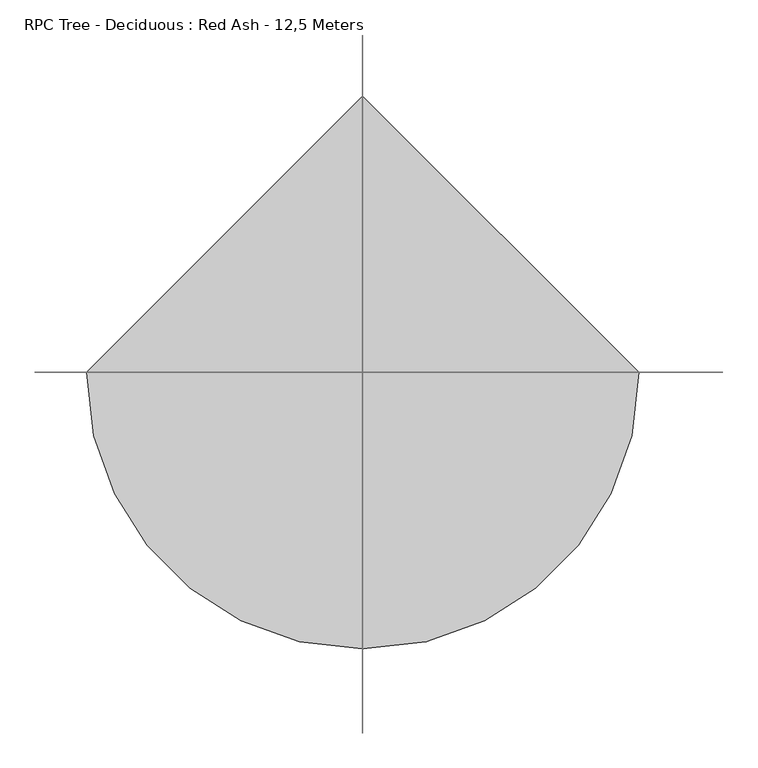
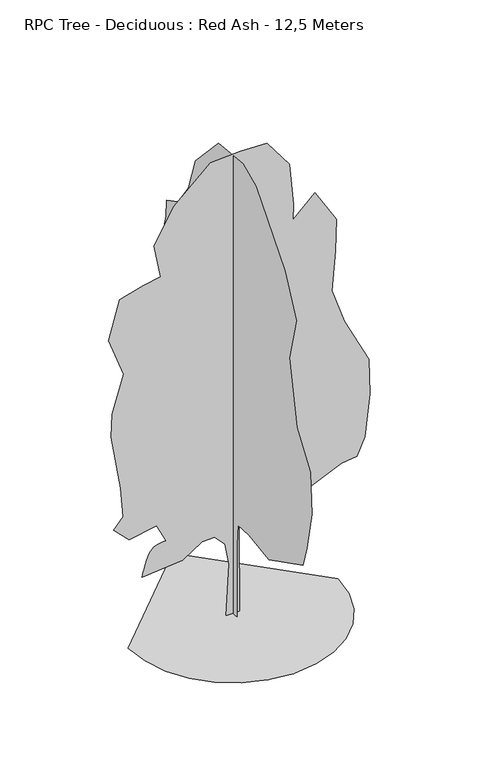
"""IFC4 building model written with IfcOpenShell, lengths in millimetres: geographic element geometry, RPC Tree - Deciduous : Red Ash - 12,5 Meters."""

from ifc_helpers import new_model, si_unit, origin, place, context, project, spatial, triangles, source, transform, mapped, element, save


def rpc_tree_deciduous_red_ash_12_5_meters_c1333066(model_context):
    return source(origin(), model_context, "Body", "Tessellation", [
        triangles([(-2698.4129082, 0.0, 0.0001015), (-2627.0754021, -618.2977976, 0.0001015), (-2423.908152, -1186.1054358, 0.0001015), (-2105.1777523, -1687.1544308, 0.0001015), (-1687.1547215, -2105.1781883, 0.0001015), (-1186.1051451, -2423.9075706, 0.0001015), (-618.2975069, -2627.0754021, 0.0001015), (0.000118, -2698.4129082, 0.0001015), (618.2978703, -2627.0754021, 0.0001015), (1186.1055084, -2423.9078613, 0.0001015), (1687.1547215, -2105.1777523, 0.0001015), (2105.178479, -1687.1547215, 0.0001015), (2423.907716, -1186.1049997, 0.0001015), (2627.0754021, -618.2973616, 0.0001015), (2698.4129082, 0.0002359, 0.0001015), (-0.0003539, 2698.4129082, 0.0001015), (-1.76e-05, -168.7110502, 0.0), (4.11e-05, -166.0871369, 1959.5702156), (5.3e-05, -213.0609594, 2522.6425323), (1.1e-06, -719.8579502, 2556.045726), (-9.48e-05, -1601.6917694, 2425.0441292), (-0.0002305, -3122.8556053, 3196.6487755), (-0.0002318, -3299.2224564, 3769.841114), (-0.0002232, -3519.6808022, 4828.0419296), (-0.0001835, -3453.5438507, 5930.3345306), (-9.53e-05, -2854.9574226, 6793.0074554), (-9.1e-06, -2505.5752602, 8465.6082687), (-5.8e-06, -2814.2145607, 9656.0844406), (7.87e-05, -2307.1604816, 10714.2855469), (0.0002574, -1028.5011749, 12235.4496735), (0.0003257, -448.1638873, 12497.0371948), (0.0004367, 646.9842733, 12389.7704865), (0.000512, 1683.1395596, 11287.4784668), (0.0005166, 1991.7819122, 10361.5512634), (0.0005451, 2454.7428978, 9700.1759354), (0.0005901, 2961.7997383, 9435.6263855), (0.0005793, 2983.8454857, 8994.7085312), (0.000578, 3116.120842, 8487.6540161), (0.0005373, 2895.6622055, 7892.4165115), (0.0005409, 3094.0748039, 7319.224173), (0.0005379, 3292.487693, 6525.5737793), (0.0005267, 3248.3961983, 6305.1145615), (0.0004719, 2873.6167488, 5776.0137177), (0.0004477, 2849.9205208, 5048.5005661), (0.0004318, 2829.5246727, 4585.5375458), (0.000417, 2851.5707108, 4012.3460793), (0.0003957, 2873.6170395, 3218.6953949), (0.0003562, 2564.9745415, 2976.1904297), (0.0002965, 1991.7826389, 2976.1904297), (0.0002997, 2256.3329155, 2160.493998), (0.0002813, 2212.0982609, 1697.6452148), (0.0002488, 1809.4341763, 2014.1673191), (0.0001618, 1032.5831205, 1815.4652035), (0.0001607, 905.0390888, 2226.1498741), (0.0001031, 354.1876104, 2221.1328838), (8.24e-05, 214.5689524, 2014.9844204), (5.36e-05, 130.4943058, 1342.3279495), (1.92e-05, 183.9993612, 2.1e-05), (-181.8747816, 8e-06, 7.31e-05), (-109.4348355, -0.0001582, 1367.2927048), (-212.1182662, -0.000223, 1948.7262554), (-477.0141975, -0.0002461, 2239.6942509), (-793.3669081, -0.000231, 2228.8325592), (-1306.2135841, -0.0001689, 1895.9437214), (-2342.3687977, -0.0001131, 1807.7605865), (-2328.0358063, -0.0001205, 1864.7714962), (-2312.7386295, -0.0001282, 1923.7103405), (-2295.5133728, -0.0001365, 1986.5053448), (-2275.3957054, -0.0001455, 2055.0857517), (-2251.4218781, -0.0001557, 2131.3774612), (-2222.6274147, -0.0001672, 2217.3118961), (-2188.04813, -0.0001803, 2314.8148109), (-2144.4707027, -0.000193, 2405.2480991), (-2090.4808296, -0.0002032, 2471.3854866), (-2027.8140152, -0.0002114, 2517.2762901), (-1958.2054733, -0.000218, 2546.9715706), (-1883.3911446, -0.0002234, 2564.5175926), (-1805.1055161, -0.0002279, 2573.9658531), (-1725.0846737, -0.0002321, 2579.3649422), (-1967.5889122, -0.0002793, 3064.3740005), (-2673.0566071, -0.0002327, 2932.0986443), (-3069.8812225, -0.0002626, 3328.9247131), (-2827.3771294, -0.0003074, 3615.5205917), (-2893.5143715, -0.0003991, 4409.1715668), (-3136.0187553, -0.0005646, 5886.2430359), (-3114.3058365, -0.0006385, 6497.9748825), (-2821.3867973, -0.000769, 7485.7704025), (-3202.1565788, -0.0008771, 8531.7455109), (-2915.5601189, -0.0010105, 9545.8551224), (-2320.3226143, -0.0010576, 9722.2222641), (-1867.4756916, -0.0010869, 9802.1040161), (-2033.726881, -0.0011857, 10692.2392181), (-1526.6716393, -0.0013156, 11596.1200928), (-578.6996332, -0.0014596, 12455.9083099), (192.9046497, -0.0014985, 12499.9998047), (876.3266699, -0.0015258, 12477.953476), (1449.5187904, -0.0014589, 11706.349411), (1554.9082878, -0.0013288, 10576.636972), (1539.7750546, -0.0012788, 10162.3517944), (2110.8941185, -0.0013669, 10692.2392181), (2662.0407097, -0.0012832, 9788.3595062), (2639.9949623, -0.0011805, 8934.5627838), (2541.7608421, -0.0010499, 7875.0855927), (2860.4533081, -0.0009529, 6944.4441422), (3496.9882919, -0.0008313, 5690.9415848), (3517.282402, -0.0007194, 4745.4222633), (3389.5538612, -0.0005792, 3615.5203011), (3191.1409721, -0.0005153, 3152.5572807), (2794.3154846, -0.0004927, 3108.4654953), (2022.7109837, -0.0004169, 2755.7317932), (1339.2888908, -0.0003292, 2270.7231709), (422.3696405, -0.0003362, 2664.9751236), (152.6424997, -0.0002898, 2374.7288864), (170.858321, -7.5e-06, 5.77e-05)], [[15, 16, 1], [14, 15, 1], [14, 1, 2], [13, 14, 2], [13, 2, 3], [13, 3, 4], [12, 13, 4], [11, 12, 4], [11, 4, 5], [11, 5, 6], [11, 6, 7], [11, 7, 8], [11, 8, 9], [11, 9, 10], [50, 51, 52], [57, 58, 17], [57, 17, 18], [56, 57, 18], [56, 18, 19], [55, 56, 19], [49, 50, 52], [52, 53, 54], [49, 52, 54], [35, 36, 37], [46, 47, 48], [46, 48, 49], [21, 22, 23], [20, 21, 23], [20, 23, 24], [20, 24, 25], [20, 25, 26], [19, 20, 26], [19, 26, 27], [45, 46, 49], [31, 32, 33], [30, 31, 33], [29, 30, 33], [29, 33, 34], [28, 29, 34], [27, 28, 34], [19, 27, 34], [19, 34, 35], [19, 35, 37], [19, 37, 38], [19, 38, 39], [19, 39, 40], [19, 40, 41], [19, 41, 42], [19, 42, 43], [19, 43, 44], [19, 44, 45], [19, 45, 49], [19, 49, 54], [55, 19, 54], [64, 65, 66], [64, 66, 67], [64, 67, 68], [99, 100, 101], [64, 68, 69], [64, 69, 70], [64, 70, 71], [114, 59, 60], [113, 114, 60], [113, 60, 61], [113, 61, 62], [64, 71, 72], [64, 72, 73], [64, 73, 74], [64, 74, 75], [64, 75, 76], [64, 76, 77], [64, 77, 78], [64, 78, 79], [63, 64, 79], [81, 82, 83], [80, 81, 83], [99, 101, 102], [107, 108, 109], [110, 111, 112], [88, 89, 90], [87, 88, 90], [87, 90, 91], [80, 83, 84], [95, 96, 97], [95, 97, 98], [94, 95, 98], [93, 94, 98], [92, 93, 98], [91, 92, 98], [91, 98, 99], [87, 91, 99], [87, 99, 102], [87, 102, 103], [87, 103, 104], [86, 87, 104], [85, 86, 104], [84, 85, 104], [80, 84, 104], [80, 104, 105], [80, 105, 106], [80, 106, 107], [80, 107, 109], [80, 109, 110], [80, 110, 112], [79, 80, 112], [63, 79, 112], [62, 63, 112], [113, 62, 112]], closed=False),
    ])


if __name__ == "__main__":
    model = new_model("IFC4")
    model_context = context("Model", 3, world=origin())
    ifc_project = project(units=[si_unit("LENGTHUNIT", "METRE", prefix="MILLI")], contexts=[model_context])
    site = spatial("IfcSite", under=ifc_project)
    building = spatial("IfcBuilding", under=site)
    placement = place(None, origin())
    rpc_tree_deciduous_red_ash_12_5_meters_shape = rpc_tree_deciduous_red_ash_12_5_meters_c1333066(model_context)
    element("IfcGeographicElement", 1, ObjectType="RPC Tree - Deciduous : Red Ash - 12,5 Meters", at=placement, inside=building, context=model_context, shape_type="MappedRepresentation", body=[
        mapped(rpc_tree_deciduous_red_ash_12_5_meters_shape, transform((0.0, 0.0, 0.0), x_axis=(1.0, 0.0, 0.0), y_axis=(0.0, 1.0, 0.0), z_axis=(0.0, 0.0, 1.0))),
    ])
    save(model, "model.ifc")
